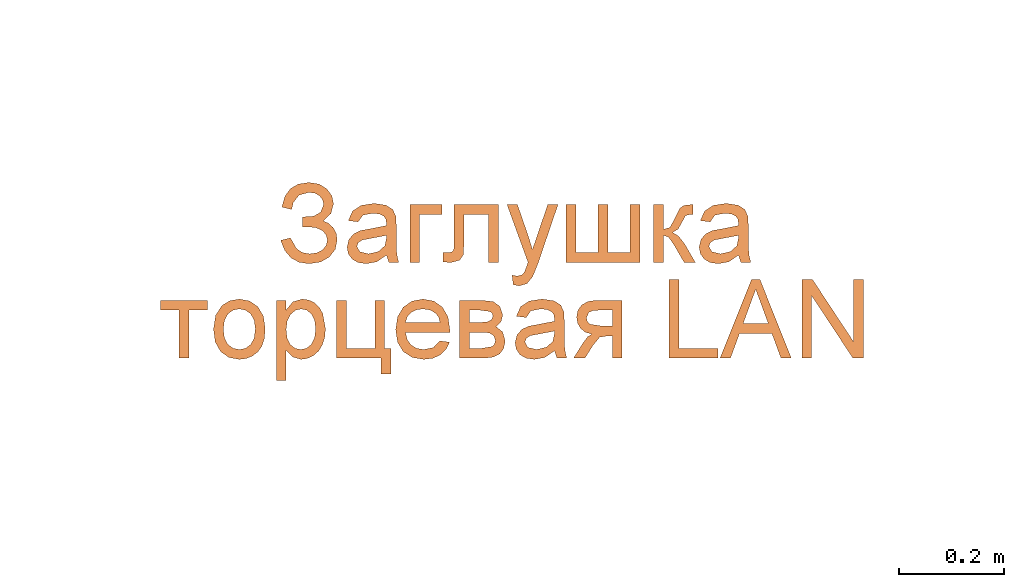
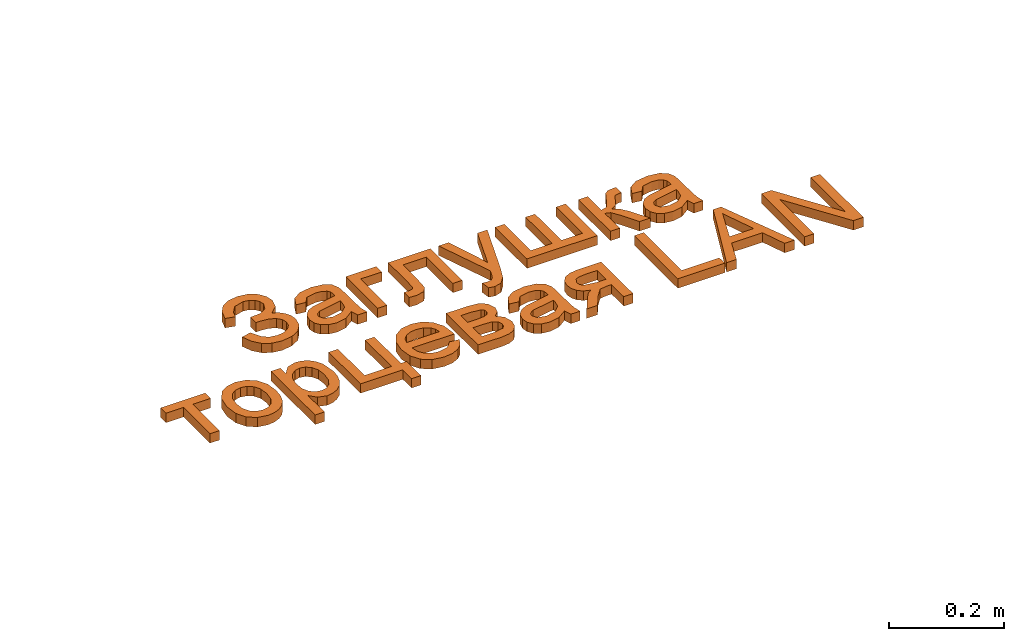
# One storey, part 31 of 71: 1 proxy.
"""IFC2X3 building model written with IfcOpenShell, lengths in millimetres."""

from ifc_helpers import new_model, entity, si_unit, converted_unit, derived_unit, direction, frame, origin, place, context, subcontext, project, spatial, polyline, outline, extrude, element, save


model = new_model("IFC2X3")

# Units and contexts
model_context = context("Model", 3, precision=0.01, world=origin(), true_north=direction((6.12303176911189e-17, 1.0)))
body_context = subcontext(model_context, "Body", "Model", "MODEL_VIEW")
ifc_project = project(units=[si_unit("LENGTHUNIT", "METRE", prefix="MILLI"), si_unit("AREAUNIT", "SQUARE_METRE"), si_unit("VOLUMEUNIT", "CUBIC_METRE"), converted_unit("PLANEANGLEUNIT", "DEGREE", entity("IfcRatioMeasure", 0.0174532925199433), si_unit("PLANEANGLEUNIT", "RADIAN"), dimensions=[0, 0, 0, 0, 0, 0, 0]), si_unit("MASSUNIT", "GRAM", prefix="KILO"), derived_unit("MASSDENSITYUNIT", [(si_unit("MASSUNIT", "GRAM", prefix="KILO"), 1), (si_unit("LENGTHUNIT", "METRE"), -3)]), si_unit("TIMEUNIT", "SECOND"), si_unit("FREQUENCYUNIT", "HERTZ"), si_unit("THERMODYNAMICTEMPERATUREUNIT", "DEGREE_CELSIUS"), derived_unit("THERMALTRANSMITTANCEUNIT", [(si_unit("MASSUNIT", "GRAM", prefix="KILO"), 1), (si_unit("THERMODYNAMICTEMPERATUREUNIT", "KELVIN"), -1), (si_unit("TIMEUNIT", "SECOND"), -3)]), derived_unit("VOLUMETRICFLOWRATEUNIT", [(si_unit("LENGTHUNIT", "METRE"), 3), (si_unit("TIMEUNIT", "SECOND"), -1)]), si_unit("ELECTRICCURRENTUNIT", "AMPERE"), si_unit("ELECTRICVOLTAGEUNIT", "VOLT"), si_unit("POWERUNIT", "WATT"), si_unit("FORCEUNIT", "NEWTON", prefix="KILO"), si_unit("ILLUMINANCEUNIT", "LUX"), si_unit("LUMINOUSFLUXUNIT", "LUMEN"), si_unit("LUMINOUSINTENSITYUNIT", "CANDELA"), derived_unit("USERDEFINED", [(si_unit("MASSUNIT", "GRAM", prefix="KILO"), -1), (si_unit("LENGTHUNIT", "METRE"), -2), (si_unit("TIMEUNIT", "SECOND"), 3), (si_unit("LUMINOUSFLUXUNIT", "LUMEN"), 1)]), derived_unit("LINEARVELOCITYUNIT", [(si_unit("LENGTHUNIT", "METRE"), 1), (si_unit("TIMEUNIT", "SECOND"), -1)]), si_unit("PRESSUREUNIT", "PASCAL"), derived_unit("USERDEFINED", [(si_unit("LENGTHUNIT", "METRE"), -2), (si_unit("MASSUNIT", "GRAM", prefix="KILO"), 1), (si_unit("TIMEUNIT", "SECOND"), -2)])], contexts=[model_context])

# Site, building, storey
site_placement = place(None, origin())
site = spatial("IfcSite", under=ifc_project, at=site_placement, Name="Default", CompositionType="ELEMENT")
building_placement = place(site_placement, origin())
building = spatial("IfcBuilding", under=site, at=building_placement, Name="Наименование здания", CompositionType="ELEMENT")
storey_placement = place(building_placement, origin())
storey = spatial("IfcBuildingStorey", under=building, at=storey_placement, Name="Этаж 01", CompositionType="ELEMENT", Elevation=0.0)

# Proxy
proxy_placement = place(storey_placement, origin())
element("IfcBuildingElementProxy", 1, at=proxy_placement, inside=storey, Name="Текст модели:150 мм Arial", ObjectType="Текст модели:150 мм Arial", context=body_context, shape_type="SweptSolid", body=[
    extrude(outline(polyline([(6.4716175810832, -69.0212528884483), (27.6609359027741, -69.0212528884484), (45.0883237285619, -63.4972240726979), (58.7537810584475, -52.4491664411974), (68.6573078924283, -35.8770799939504), (74.0512365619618, -14.3469748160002), (71.5654100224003, 5.25502871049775), (62.2608923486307, 21.0946147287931), (47.1987476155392, 31.337467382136), (34.7435158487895, 34.4245924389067), (22.5903035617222, 33.2242089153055), (11.7653973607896, 28.3858634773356), (3.29508385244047, 20.5591027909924), (-3.88954512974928, 39.5517960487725), (-19.2191274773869, 51.24986739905), (-34.5984709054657, 54.2011080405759), (-50.4951132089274, 50.5063592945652), (-64.6841945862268, 40.2481258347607), (-74.9408552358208, 23.5089123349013), (-79.9269719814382, 3.813512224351), (-77.6558490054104, -13.7502430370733), (-68.1274863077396, -29.1823534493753), (-51.3418838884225, -42.4828190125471), (-39.7736651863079, -26.8902500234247), (-50.8769148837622, -18.9970900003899), (-59.862068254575, -3.35972386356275), (-57.4730653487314, 16.4599122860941), (-51.4311229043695, 26.4493668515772), (-43.1748792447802, 32.6323692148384), (-33.9606823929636, 34.932789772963), (-25.0448803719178, 33.2744989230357), (-14.0492923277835, 22.5781998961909), (-11.8439649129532, 7.54353942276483), (-18.6044381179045, -12.7324671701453), (-1.20714525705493, -19.951362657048), (2.58559475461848, -10.8109880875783), (10.0927476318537, 2.75756776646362), (19.4171629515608, 11.658809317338), (29.8017800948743, 15.460070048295), (40.4895384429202, 13.7286834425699), (48.9026459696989, 7.76330771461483), (54.0943068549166, -1.81417037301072), (55.2607991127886, -14.0130640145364), (51.5984007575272, -27.8426864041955), (43.878040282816, -39.7893356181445), (32.6168568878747, -46.9509333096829), (9.34118985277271, -49.8192361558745), (6.4716175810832, -69.0212528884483)])), frame((23958.6616575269, 4528.40865039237, 0.0), z_axis=(0.0, 0.0, 1.0), x_axis=(0.383258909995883, -0.923640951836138, 0.0)), (0.0, 0.0, 1.0), 20.0),
    extrude(outline(polyline([(49.6524096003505, 10.0181831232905), (64.5432257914, 10.0181831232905), (70.4995522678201, 27.887162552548), (54.2883394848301, 29.3355270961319), (22.942008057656, 38.7760718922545), (0.710484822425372, 46.1865796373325), (-15.2157084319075, 50.5258565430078), (-29.1700318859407, 49.0891254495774), (-41.2222862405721, 39.5147959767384), (-51.6167739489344, 18.9177724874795), (-55.8804334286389, -5.85565960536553), (-50.8431495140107, -24.8298167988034), (-35.9697834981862, -38.3769694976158), (-27.7798345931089, -21.2525308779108), (-37.1040448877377, -8.56625349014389), (-34.5156022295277, 10.6580228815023), (-29.3910674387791, 21.7272506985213), (-22.7658175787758, 28.6898706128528), (-16.3179778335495, 30.6413818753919), (-7.93316863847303, 29.2133758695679), (-3.98942903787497, 27.7824615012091), (-8.17747109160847, -5.25653692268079), (-10.6437625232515, -21.6131678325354), (-8.95109552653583, -36.0793630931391), (-1.68600590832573, -48.4864376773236), (11.3085579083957, -56.6182193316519), (24.0777236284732, -58.3588743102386), (36.0005558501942, -54.7859509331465), (46.0329524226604, -45.8907241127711), (53.1308111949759, -31.6644687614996), (55.9868232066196, -11.3466480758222), (49.6524096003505, 10.0181831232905)]), holes=[polyline([(13.9144507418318, 21.9308360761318), (18.9401012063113, 20.1392847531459), (31.8183305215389, 12.7055101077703), (38.2807120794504, -2.4005249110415), (36.5298778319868, -21.9040040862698), (27.4499699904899, -36.2305979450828), (16.0084717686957, -38.330435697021), (9.94744424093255, -33.5956214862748), (7.55677023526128, -25.0624858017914), (9.78457593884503, -8.72330506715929), (13.9144507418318, 21.9308360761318)])]), frame((24074.6678034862, 4511.66123601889, 0.0), z_axis=(0.0, 0.0, 1.0), x_axis=(0.316227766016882, -0.948683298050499, 0.0)), (0.0, 0.0, 1.0), 20.0),
    extrude(outline(polyline([(-43.1648207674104, -26.6837073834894), (67.4940833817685, -26.6837073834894), (67.4940833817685, -7.848149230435), (-24.3292626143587, -7.848149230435), (-24.3292626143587, 34.5318566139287), (-43.1648207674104, 34.5318566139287), (-43.1648207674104, -26.6837073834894)])), frame((24171.2915150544, 4521.09226675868, 0.0), z_axis=(0.0, 0.0, 1.0), x_axis=(0.0, -1.0, 0.0)), (0.0, 0.0, 1.0), 20.0),
    extrude(outline(polyline([(-74.0534959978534, 18.8171640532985), (-74.0534959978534, -65.9428476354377), (36.4950435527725, -65.9428476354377), (36.4950435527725, -47.1072894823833), (-55.2179378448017, -47.1072894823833), (-55.2179378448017, -0.0183940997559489), (-2.42687153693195, -0.0183940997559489), (21.9269165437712, 1.25079878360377), (32.2092183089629, 8.22216259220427), (36.6054081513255, 24.7032759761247), (35.6489149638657, 40.0071669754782), (17.7698499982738, 40.0071669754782), (17.7698499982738, 31.5826692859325), (16.6110217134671, 23.0662010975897), (12.9322017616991, 19.663292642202), (-3.49372932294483, 18.8171640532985), (-74.0534959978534, 18.8171640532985)])), frame((24248.1849834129, 4490.20359152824, 0.0), z_axis=(0.0, 0.0, -1.0), x_axis=(0.0, -1.0, 0.0)), (0.0, 0.0, -1.0), 20.0),
    extrude(outline(polyline([(-14.0627784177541, -63.689784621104), (-2.30982667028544, -63.689784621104), (11.2235996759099, -56.6043892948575), (19.2677475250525, -41.4042581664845), (24.1483344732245, -15.3233337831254), (39.1861017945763, 103.403530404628), (19.8673420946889, 99.4533686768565), (11.3764058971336, 32.0809099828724), (8.47999679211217, 9.33454668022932), (-3.68750084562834, 31.9296007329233), (-36.7914083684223, 87.868192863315), (-56.2543379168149, 83.8885523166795), (5.0468659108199, -16.1124679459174), (4.51901081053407, -20.8765214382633), (2.25144479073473, -35.4962883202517), (-1.95815357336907, -42.2710621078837), (-10.3000835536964, -46.0982994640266), (-20.0027604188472, -46.3925118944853), (-14.0627784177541, -63.689784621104)])), frame((24368.9177228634, 4470.79973233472, 0.0), z_axis=(0.0, 0.0, 1.0), x_axis=(0.979728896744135, -0.200327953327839, 0.0)), (0.0, 0.0, 1.0), 20.0),
    extrude(outline(polyline([(-49.0509326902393, -70.633343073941), (61.6079714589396, -70.633343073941), (61.6079714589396, 70.6333430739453), (-49.0509326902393, 70.6333430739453), (-49.0509326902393, 51.7977849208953), (42.7724133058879, 51.7977849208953), (42.7724133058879, 9.4177790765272), (-49.0509326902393, 9.4177790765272), (-49.0509326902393, -9.41777907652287), (42.7724133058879, -9.41777907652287), (42.7724133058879, -51.7977849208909), (-49.0509326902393, -51.7977849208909), (-49.0509326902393, -70.633343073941)])), frame((24514.2556364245, 4515.20615483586, 0.0), z_axis=(0.0, 0.0, 1.0), x_axis=(0.0, -1.0, 0.0)), (0.0, 0.0, 1.0), 20.0),
    extrude(outline(polyline([(-45.4943568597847, -44.3029556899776), (65.1645472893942, -44.3029556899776), (65.1645472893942, -25.4673975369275), (13.3667623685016, -25.4673975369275), (16.8432472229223, -15.3506426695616), (31.2090391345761, -5.41782879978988), (65.1645472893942, 14.3374343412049), (65.1645472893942, 35.7481664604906), (30.4732751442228, 15.5882331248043), (15.031428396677, 3.92637387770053), (7.70137964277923, -7.95621456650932), (1.1346860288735, 2.69396919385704), (-12.2746126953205, 10.2907323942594), (-24.6722359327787, 16.7654555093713), (-26.658798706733, 25.9625053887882), (-26.54843410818, 31.0392769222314), (-45.4943568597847, 31.0392769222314), (-45.4943568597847, 27.434033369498), (-44.0596170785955, 13.6568526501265), (-38.5229930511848, 6.07848354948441), (-21.5084507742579, -2.51156103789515), (-1.78997583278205, -12.8490451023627), (1.59453852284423, -25.4673975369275), (-45.4943568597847, -25.4673975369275), (-45.4943568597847, -44.3029556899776)])), frame((24655.0908276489, 4518.76273066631, 0.0), z_axis=(0.0, 0.0, 1.0), x_axis=(0.0, -1.0, 0.0)), (0.0, 0.0, 1.0), 20.0),
    extrude(outline(polyline([(49.6524096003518, 10.0181831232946), (64.5432257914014, 10.0181831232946), (70.4995522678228, 27.8871625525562), (54.2883394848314, 29.335527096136), (22.9420080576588, 38.7760718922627), (0.710484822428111, 46.1865796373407), (-15.2157084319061, 50.5258565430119), (-29.1700318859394, 49.0891254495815), (-41.2222862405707, 39.5147959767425), (-51.6167739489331, 18.9177724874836), (-55.8804334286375, -5.85565960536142), (-50.8431495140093, -24.8298167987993), (-35.9697834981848, -38.3769694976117), (-27.7798345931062, -21.2525308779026), (-37.1040448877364, -8.56625349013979), (-34.515602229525, 10.6580228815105), (-29.3910674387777, 21.7272506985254), (-22.7658175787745, 28.6898706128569), (-16.3179778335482, 30.641381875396), (-7.93316863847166, 29.213375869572), (-3.9894290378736, 27.7824615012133), (-8.1774710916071, -5.25653692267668), (-10.6437625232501, -21.6131678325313), (-8.95109552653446, -36.079363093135), (-1.68600590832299, -48.4864376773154), (11.3085579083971, -56.6182193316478), (24.077723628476, -58.3588743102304), (36.0005558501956, -54.7859509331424), (46.0329524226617, -45.890724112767), (53.1308111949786, -31.6644687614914), (55.9868232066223, -11.346648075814), (49.6524096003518, 10.0181831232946)]), holes=[polyline([(13.9144507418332, 21.930836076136), (18.9401012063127, 20.13928475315), (31.8183305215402, 12.7055101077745), (38.2807120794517, -2.40052491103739), (36.5298778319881, -21.9040040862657), (27.4499699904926, -36.2305979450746), (16.0084717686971, -38.3304356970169), (9.94744424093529, -33.5956214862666), (7.55677023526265, -25.0624858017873), (9.78457593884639, -8.72330506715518), (13.9144507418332, 21.930836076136)])]), frame((24748.0390074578, 4511.66123601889, 0.0), z_axis=(0.0, 0.0, 1.0), x_axis=(0.316227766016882, -0.948683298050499, 0.0)), (0.0, 0.0, 1.0), 20.0),
    extrude(outline(polyline([(-37.0825051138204, -44.7344506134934), (-18.2469469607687, -44.7344506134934), (-18.2469469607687, -9.41777907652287), (73.5763990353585, -9.41777907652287), (73.5763990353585, 9.41777907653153), (-18.2469469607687, 9.41777907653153), (-18.2469469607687, 44.734450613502), (-37.0825051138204, 44.734450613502), (-37.0825051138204, -44.7344506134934)])), frame((23712.5671925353, 4344.21235564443, 0.0), z_axis=(0.0, 0.0, 1.0), x_axis=(0.0, -1.0, 0.0)), (0.0, 0.0, 1.0), 20.0),
    extrude(outline(polyline([(-11.1946000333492, -52.2426443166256), (13.7256178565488, -52.2426443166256), (33.0962748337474, -44.5759588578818), (46.3022849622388, -30.4665992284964), (52.7285623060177, -11.1385767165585), (52.8795704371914, 2.26160042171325), (49.5396030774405, 15.0586597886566), (42.9102470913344, 26.3612191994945), (33.1930893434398, 35.2778964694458), (19.4724914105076, 41.8007990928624), (0.832814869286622, 45.9220345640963), (-22.8762356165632, 45.7172545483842), (-41.8930612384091, 37.8901775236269), (-55.1425891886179, 23.7682718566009), (-61.5497466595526, 4.6790059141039), (-60.9951142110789, -13.6515433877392), (-53.9645370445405, -29.8701936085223), (-37.0646721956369, -44.548758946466), (-11.1946000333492, -52.2426443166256)]), holes=[polyline([(-8.64857835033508, -33.5799173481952), (-25.2263685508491, -29.0848574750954), (-36.3325046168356, -20.9461821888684), (-42.1575488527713, -10.2052592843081), (-42.892063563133, 2.09654344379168), (-38.8516378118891, 13.6120893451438), (-30.3014219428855, 22.3586496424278), (-17.5331679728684, 27.2345846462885), (-0.838627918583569, 27.1382546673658), (16.1172354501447, 22.5908646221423), (27.4101305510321, 14.4263394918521), (33.3060231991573, 3.694179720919), (34.0708792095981, -8.55611424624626), (30.0134303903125, -20.1946478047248), (21.4625840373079, -28.9457632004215), (8.53602088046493, -33.7580048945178), (-8.64857835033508, -33.5799173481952)])]), frame((23822.3579973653, 4322.03929027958, 0.0), z_axis=(0.0, 0.0, 1.0), x_axis=(0.137105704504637, -0.990556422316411, 0.0)), (0.0, 0.0, 1.0), 20.0),
    extrude(outline(polyline([(-51.3898957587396, -92.5503727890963), (-32.5543376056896, -92.5503727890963), (-32.5543376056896, -35.4550871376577), (-20.6165668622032, -47.6871634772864), (-4.22742397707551, -52.5248117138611), (7.98165973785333, -50.7175914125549), (19.5929352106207, -45.2959305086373), (29.562537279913, -36.4851567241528), (36.8466007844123, -24.5105977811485), (41.3025714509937, -10.1034191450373), (42.7878950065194, 6.0052137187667), (37.5271824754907, 35.0311031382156), (30.9972770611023, 46.7849328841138), (21.9289858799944, 55.5589184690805), (10.7913584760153, 61.021966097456), (-1.94655560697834, 62.8429819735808), (-19.531314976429, 57.6374517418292), (-32.5543376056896, 42.0208610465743), (-32.5543376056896, 60.4885372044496), (-51.3898957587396, 60.4885372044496), (-51.3898957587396, -92.5503727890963)]), holes=[polyline([(-32.5543376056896, 4.27616834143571), (-30.3792353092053, 21.3596884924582), (-23.853928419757, 33.8354866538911), (-14.5051272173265, 41.4644395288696), (-3.85954198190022, 44.0074238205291), (6.74465652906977, 41.61619085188), (15.7485683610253, 34.4424919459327), (21.901394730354, 22.4679330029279), (23.952336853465, 5.67411992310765), (21.8508109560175, -11.8462600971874), (15.5462332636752, -24.0875334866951), (6.29859960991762, -31.2888235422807), (-4.63209417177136, -33.6892535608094), (-15.3880440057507, -31.3715969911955), (-24.4057514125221, -24.4186272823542), (-30.5171910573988, -12.609615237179), (-32.5543376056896, 4.27616834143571)])]), frame((23940.5404459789, 4320.8063235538, 0.0)), (0.0, 0.0, 1.0), 20.0),
    extrude(outline(polyline([(-72.5953803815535, -62.0003789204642), (38.0635237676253, -62.0003789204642), (38.0635237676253, 22.7596327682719), (68.671305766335, 22.7596327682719), (68.671305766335, 41.595190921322), (19.2279656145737, 41.595190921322), (19.2279656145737, 29.8229670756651), (-72.5953803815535, 29.8229670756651), (-72.5953803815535, 10.9874089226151), (19.2279656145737, 10.9874089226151), (19.2279656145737, -43.1648207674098), (-72.5953803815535, -43.1648207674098), (-72.5953803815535, -62.0003789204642)])), frame((24066.518722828, 4308.6994803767, 0.0), z_axis=(0.0, 0.0, 1.0), x_axis=(0.0, -1.0, 0.0)), (0.0, 0.0, 1.0), 20.0),
    extrude(outline(polyline([(-12.1519235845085, -30.5627594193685), (-23.302832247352, -45.4710024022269), (-8.67600558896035, -50.3662606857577), (6.1827763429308, -49.9698260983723), (20.8164252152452, -44.172116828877), (34.7678526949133, -32.8635510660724), (47.4570640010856, -14.3885693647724), (51.2430729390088, 5.61202992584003), (45.9060763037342, 25.8663302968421), (31.2262708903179, 45.1024152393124), (10.9154740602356, 59.6770093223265), (-9.99269287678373, 64.6676720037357), (-29.9463894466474, 60.6331852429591), (-47.3937751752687, 48.1323309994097), (-58.8653278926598, 30.7635073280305), (-61.9660241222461, 11.0147969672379), (-56.1560561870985, -9.52443743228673), (-40.8956164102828, -29.2648332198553), (-37.1706876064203, -32.7160206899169), (21.6964908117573, 28.1133970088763), (29.5607979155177, 15.9656989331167), (31.7422008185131, 3.31507577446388), (28.7208128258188, -8.97205129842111), (20.9767472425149, -20.0292611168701), (5.30526907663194, -30.5627594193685), (-12.1519235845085, -30.5627594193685)]), holes=[polyline([(8.16121838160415, 41.2120477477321), (-37.6840592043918, -6.16140575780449), (-43.0633748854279, 2.58957596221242), (-44.7058228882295, 11.1286426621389), (-41.8277013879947, 23.6248066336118), (-33.8073361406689, 35.0865524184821), (-23.7122716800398, 42.9855035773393), (-12.6145549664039, 46.8552978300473), (-1.62109020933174, 46.3720932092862), (8.16121838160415, 41.2120477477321)])]), frame((24171.6578028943, 4316.11978284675, 0.0), z_axis=(0.0, 0.0, -1.0), x_axis=(-0.695421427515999, -0.718602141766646, 0.0)), (0.0, 0.0, -1.0), 20.0),
    extrude(outline(polyline([(-56.9428773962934, -61.1019147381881), (53.7160267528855, -61.1019147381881), (53.7160267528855, -13.2404671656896), (51.7202669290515, 3.22225211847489), (45.7329874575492, 15.2335992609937), (35.6254296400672, 22.8211654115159), (21.2688347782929, 26.0125417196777), (3.51852851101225, 20.972558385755), (-6.69019685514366, 8.31741775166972), (-16.0160054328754, 18.066290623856), (-29.0942103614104, 21.3036521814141), (-45.1890476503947, 15.9509691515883), (-54.4228857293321, 3.1486757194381), (-56.9428773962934, -19.6048256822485), (-56.9428773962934, -61.1019147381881)]), holes=[polyline([(-14.562871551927, -42.266356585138), (-38.1073192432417, -42.266356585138), (-38.1073192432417, -23.0629164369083), (-35.4953570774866, -3.30765329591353), (-31.8809164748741, 1.02415719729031), (-26.2615189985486, 2.4680940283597), (-19.3453374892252, -0.824449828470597), (-15.5193647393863, -8.29245433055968), (-14.562871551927, -23.6515276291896), (-14.562871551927, -42.266356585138)]), polyline([(34.8804685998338, -42.266356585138), (4.27268660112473, -42.266356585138), (4.27268660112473, -21.0027772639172), (5.37633258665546, -4.429693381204), (10.6554392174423, 3.95801610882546), (19.7237303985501, 7.1769835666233), (26.8376484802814, 5.56749983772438), (31.4775601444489, 1.32765984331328), (34.8804685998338, -19.1633672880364), (34.8804685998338, -42.266356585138)])]), frame((24301.0647355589, 4324.35198336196, 0.0), z_axis=(0.0, 0.0, 1.0), x_axis=(0.0, -1.0, 0.0)), (0.0, 0.0, 1.0), 20.0),
    extrude(outline(polyline([(49.6524096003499, 10.0181831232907), (64.5432257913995, 10.0181831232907), (70.4995522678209, 27.8871625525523), (54.2883394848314, 29.335527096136), (22.9420080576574, 38.7760718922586), (0.710484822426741, 46.1865796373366), (-15.2157084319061, 50.5258565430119), (-29.1700318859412, 49.0891254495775), (-41.2222862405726, 39.5147959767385), (-51.6167739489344, 18.9177724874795), (-55.8804334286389, -5.85565960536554), (-50.8431495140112, -24.8298167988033), (-35.9697834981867, -38.3769694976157), (-27.7798345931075, -21.2525308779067), (-37.1040448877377, -8.56625349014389), (-34.5156022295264, 10.6580228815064), (-29.3910674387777, 21.7272506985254), (-22.7658175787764, 28.689870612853), (-16.3179778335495, 30.6413818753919), (-7.93316863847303, 29.2133758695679), (-3.98942903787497, 27.7824615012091), (-8.17747109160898, -5.25653692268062), (-10.643762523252, -21.6131678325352), (-8.95109552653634, -36.0793630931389), (-1.68600590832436, -48.4864376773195), (11.3085579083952, -56.6182193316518), (24.0777236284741, -58.3588743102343), (36.0005558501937, -54.7859509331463), (46.0329524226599, -45.890724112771), (53.1308111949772, -31.6644687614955), (55.9868232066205, -11.346648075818), (49.6524096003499, 10.0181831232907)]), holes=[polyline([(13.9144507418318, 21.9308360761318), (18.9401012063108, 20.139284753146), (31.8183305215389, 12.7055101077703), (38.2807120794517, -2.40052491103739), (36.5298778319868, -21.9040040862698), (27.4499699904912, -36.2305979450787), (16.0084717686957, -38.330435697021), (9.9474442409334, -33.5956214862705), (7.55677023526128, -25.0624858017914), (9.78457593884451, -8.72330506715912), (13.9144507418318, 21.9308360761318)])]), frame((24396.0495144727, 4328.69900925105, 0.0), z_axis=(0.0, 0.0, 1.0), x_axis=(0.316227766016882, -0.948683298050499, 0.0)), (0.0, 0.0, 1.0), 20.0),
    extrude(outline(polyline([(-56.4073463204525, -58.5456604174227), (-7.25831176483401, -58.5456604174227), (9.0296635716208, -56.3291713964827), (20.958237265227, -49.6797043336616), (28.2698919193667, -39.4709789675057), (30.7071101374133, -26.5767150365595), (28.9228824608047, -15.2091613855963), (23.5701994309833, -5.23955931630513), (14.5203023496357, 2.25603633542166), (1.64443251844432, 6.20157073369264), (9.33316621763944, 11.0208248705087), (17.6840875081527, 21.8733437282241), (36.5932220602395, 52.1132437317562), (14.8146079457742, 52.1132437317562), (-0.194977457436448, 28.2009140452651), (-13.3283646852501, 12.1244708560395), (-27.3078805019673, 9.7332378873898), (-37.5717881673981, 9.7332378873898), (-37.5717881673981, 52.1132437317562), (-56.4073463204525, 52.1132437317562), (-56.4073463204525, -58.5456604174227)]), holes=[polyline([(-37.5717881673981, -39.710102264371), (-37.5717881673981, -9.10232026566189), (-18.2947716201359, -9.10232026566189), (5.23128197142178, -12.9834753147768), (10.2114844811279, -17.9636778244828), (11.8715519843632, -25.1419752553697), (7.36499754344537, -35.3507006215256), (0.08553256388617, -38.6202518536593), (-12.7397534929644, -39.710102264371), (-37.5717881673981, -39.710102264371)])]), frame((24494.3421840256, 4322.74920034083, 0.0), z_axis=(0.0, 0.0, 1.0), x_axis=(-1.0, 0.0, 0.0)), (0.0, 0.0, 1.0), 20.0),
    extrude(outline(polyline([(-37.6711163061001, -56.5066744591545), (56.5066744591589, -56.5066744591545), (56.5066744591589, -37.6711163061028), (-18.8355581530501, -37.6711163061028), (-18.8355581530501, 94.177790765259), (-37.6711163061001, 94.177790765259), (-37.6711163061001, -56.5066744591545)])), frame((24677.8895478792, 4327.14263106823, 0.0)), (0.0, 0.0, 1.0), 20.0),
    extrude(outline(polyline([(-68.1639351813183, -49.4433401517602), (-48.2615192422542, -49.4433401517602), (-31.0446418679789, -2.35444476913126), (31.0170507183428, -2.35444476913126), (48.2707162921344, -49.4433401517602), (68.1731322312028, -49.4433401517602), (8.02442601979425, 101.241125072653), (-8.01522896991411, 101.241125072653), (-68.1639351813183, -49.4433401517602)]), holes=[polyline([(-24.1284603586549, 16.4811133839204), (-9.37639235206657, 56.7641918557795), (0.00459852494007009, 82.4055669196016), (10.5628117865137, 53.5268302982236), (24.1376574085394, 16.4811133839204), (-24.1284603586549, 16.4811133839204)])]), frame((24806.2021892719, 4320.07929676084, 0.0)), (0.0, 0.0, 1.0), 20.0),
    extrude(outline(polyline([(-58.8611192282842, -75.3459114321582), (-40.0255610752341, -75.3459114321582), (-40.0255610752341, 44.0685842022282), (38.7011858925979, -75.3459114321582), (58.8611192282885, -75.3459114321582), (58.8611192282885, 75.3385537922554), (40.0255610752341, 75.3385537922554), (40.0255610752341, -44.0391536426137), (-38.7011858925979, 75.3385537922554), (-58.8611192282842, 75.3385537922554), (-58.8611192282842, -75.3459114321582)])), frame((24953.3595858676, 4345.98186804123, 0.0)), (0.0, 0.0, 1.0), 20.0),
])

save(model, "model.ifc")
